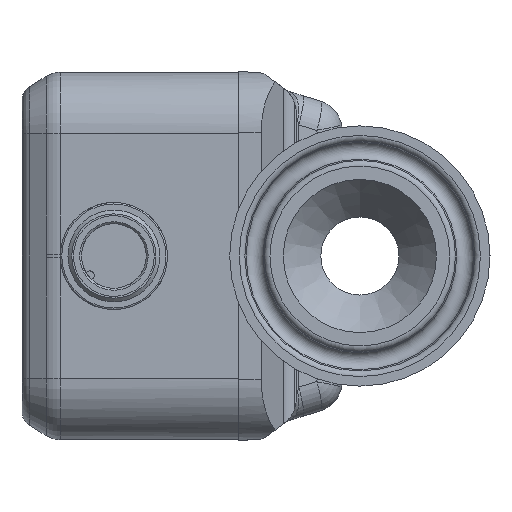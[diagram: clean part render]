
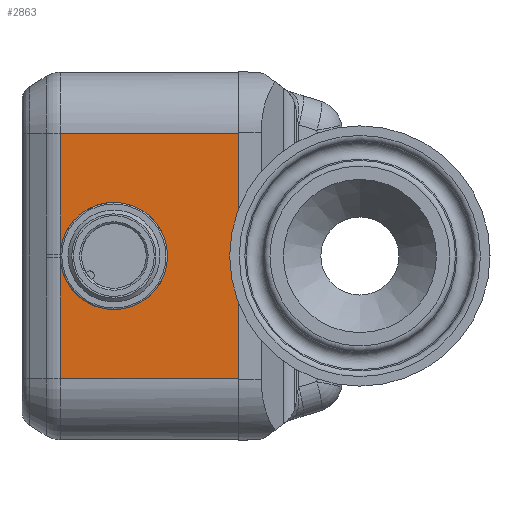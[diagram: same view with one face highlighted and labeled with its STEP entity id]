
A CAD part, left-side view. The second image highlights one B-rep face of the part: STEP entity #2863.
In plain terms, the highlighted planar face has unit normal (-1, 0, 0).
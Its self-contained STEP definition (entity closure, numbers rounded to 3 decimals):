
#124=CIRCLE('',#3059,7.);
#501=ORIENTED_EDGE('',*,*,#970,.T.);
#502=ORIENTED_EDGE('',*,*,#971,.T.);
#503=ORIENTED_EDGE('',*,*,#972,.T.);
#504=ORIENTED_EDGE('',*,*,#973,.T.);
#505=ORIENTED_EDGE('',*,*,#974,.F.);
#506=ORIENTED_EDGE('',*,*,#966,.T.);
#966=EDGE_CURVE('',#1193,#1194,#1333,.T.);
#970=EDGE_CURVE('',#1194,#1197,#1335,.T.);
#971=EDGE_CURVE('',#1197,#1198,#1336,.T.);
#972=EDGE_CURVE('',#1198,#1199,#124,.F.);
#973=EDGE_CURVE('',#1199,#1200,#1337,.T.);
#974=EDGE_CURVE('',#1193,#1200,#1338,.T.);
#1193=VERTEX_POINT('',#4258);
#1194=VERTEX_POINT('',#4260);
#1197=VERTEX_POINT('',#4270);
#1198=VERTEX_POINT('',#4272);
#1199=VERTEX_POINT('',#4274);
#1200=VERTEX_POINT('',#4276);
#1333=LINE('',#4261,#1431);
#1335=LINE('',#4269,#1433);
#1336=LINE('',#4271,#1434);
#1337=LINE('',#4275,#1435);
#1338=LINE('',#4277,#1436);
#1431=VECTOR('',#3476,1000.);
#1433=VECTOR('',#3486,1000.);
#1434=VECTOR('',#3487,1000.);
#1435=VECTOR('',#3490,1000.);
#1436=VECTOR('',#3491,1000.);
#1512=EDGE_LOOP('',(#501,#502,#503,#504,#505,#506));
#1691=FACE_BOUND('',#1512,.T.);
#1850=PLANE('',#3058);
#2863=ADVANCED_FACE('',(#1691),#1850,.T.);
#3058=AXIS2_PLACEMENT_3D('',#4268,#3484,#3485);
#3059=AXIS2_PLACEMENT_3D('',#4273,#3488,#3489);
#3476=DIRECTION('',(0.,0.,1.));
#3484=DIRECTION('',(-1.,0.,0.));
#3485=DIRECTION('',(0.,0.,1.));
#3486=DIRECTION('',(0.,1.,0.));
#3487=DIRECTION('',(0.,0.,-1.));
#3488=DIRECTION('',(-1.,0.,0.));
#3489=DIRECTION('',(0.,0.,1.));
#3490=DIRECTION('',(0.,0.,-1.));
#3491=DIRECTION('',(0.,1.,0.));
#4258=CARTESIAN_POINT('',(-43.212,15.85,-16.));
#4260=CARTESIAN_POINT('',(-43.212,15.85,16.));
#4261=CARTESIAN_POINT('',(-43.212,15.85,-16.));
#4268=CARTESIAN_POINT('',(-43.212,15.85,-16.));
#4269=CARTESIAN_POINT('',(-43.212,15.85,16.));
#4270=CARTESIAN_POINT('',(-43.212,39.126,16.));
#4271=CARTESIAN_POINT('',(-43.212,39.126,-16.));
#4272=CARTESIAN_POINT('',(-43.212,39.126,0.23));
#4273=CARTESIAN_POINT('',(-43.212,32.13,0.));
#4274=CARTESIAN_POINT('',(-43.212,39.126,-0.23));
#4275=CARTESIAN_POINT('',(-43.212,39.126,-16.));
#4276=CARTESIAN_POINT('',(-43.212,39.126,-16.));
#4277=CARTESIAN_POINT('',(-43.212,15.85,-16.));
